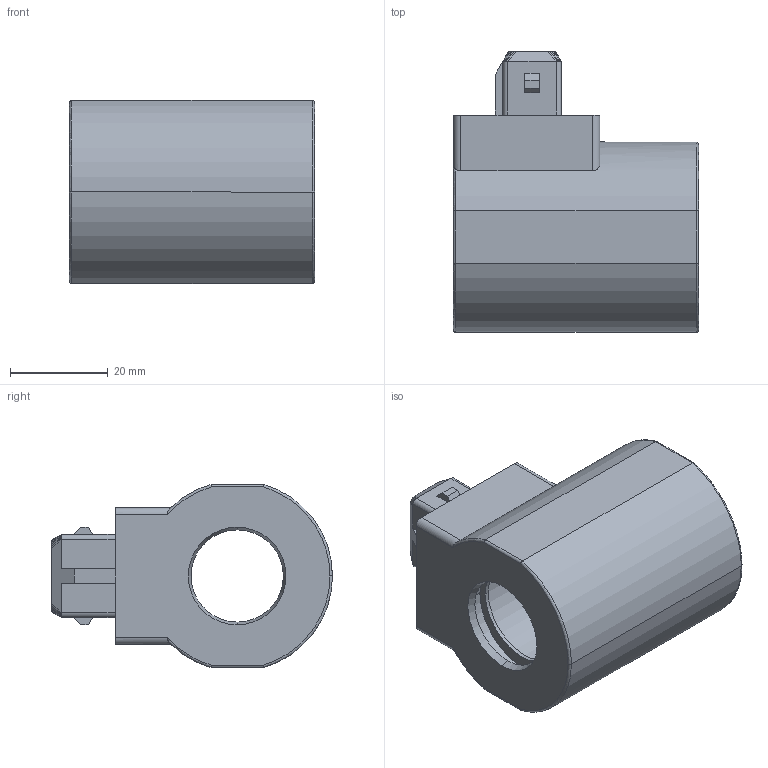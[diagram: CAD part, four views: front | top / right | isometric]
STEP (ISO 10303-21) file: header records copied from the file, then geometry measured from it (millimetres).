
FILE_DESCRIPTION (( 'STEP AP214' ), '1' );
FILE_NAME ('KJ35_16.STEP', '2017-03-23T14:48:29', ( '' ), ( '' ), 'SwSTEP 2.0', 'SolidWorks 2016', '' );
FILE_SCHEMA (( 'AUTOMOTIVE_DESIGN' ));
Length unit declared in the file: millimetre
Products named in the file (1): KJ35_16
Bounding box: 50.2 x 57.5 x 37.5 mm (x, y, z)
Volume: 41860.6 mm3; surface area: 15196.7 mm2
Topology: 1 solids, 1 shells, 171 faces, 448 edges, 288 vertices
Faces by surface type: plane 122, cylinder 38, bspline 7, cone 4
Entity records: 7643 total; most frequent: CARTESIAN_POINT 1532, ORIENTED_EDGE 894, DIRECTION 836, EDGE_CURVE 447, VECTOR 330, LINE 330, VERTEX_POINT 288, AXIS2_PLACEMENT_3D 253
